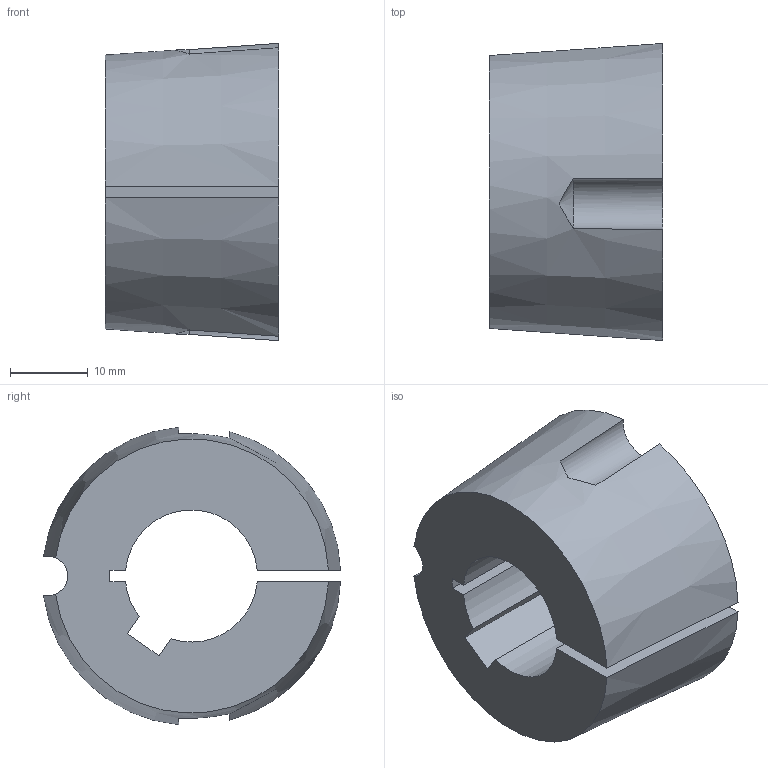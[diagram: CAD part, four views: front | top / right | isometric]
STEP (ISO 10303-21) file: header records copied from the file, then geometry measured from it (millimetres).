
FILE_DESCRIPTION( ( 'STEP AP203' ), '1' );
FILE_NAME( 'D:/export/antriebselemente/spannbuchsen_und_spannsaetze/taper-spannbuchsen_1008_bis_5050/taper-spannbuchsen_62250217Isometric_24.stp', '2018-12-11T11:10:58', ( '' ), ( '' ), ' ', 'PARTsolutions', ' ' );
FILE_SCHEMA( ( 'CONFIG_CONTROL_DESIGN' ) );
Length unit declared in the file: millimetre
Products named in the file (1): _taper-spannbuchsen_62250217
Bounding box: 22.3 x 38.22 x 38.26 mm (x, y, z)
Volume: 17398.7 mm3; surface area: 6087.6 mm2
Topology: 1 solids, 1 shells, 20 faces, 54 edges, 36 vertices
Faces by surface type: plane 10, cylinder 6, cone 4
Entity records: 736 total; most frequent: CARTESIAN_POINT 187, ORIENTED_EDGE 108, DIRECTION 104, EDGE_CURVE 54, AXIS2_PLACEMENT_3D 39, VERTEX_POINT 36, LINE 26, VECTOR 26
